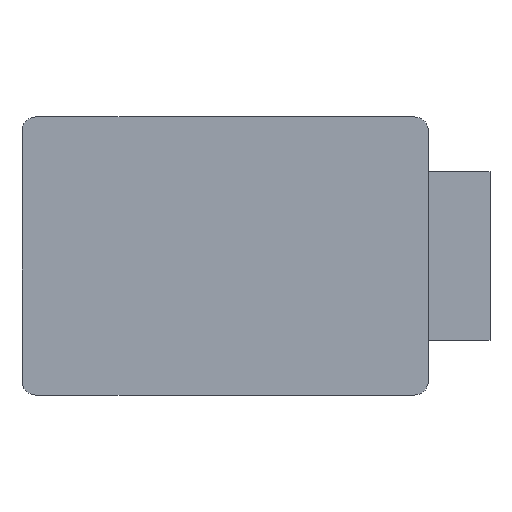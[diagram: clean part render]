
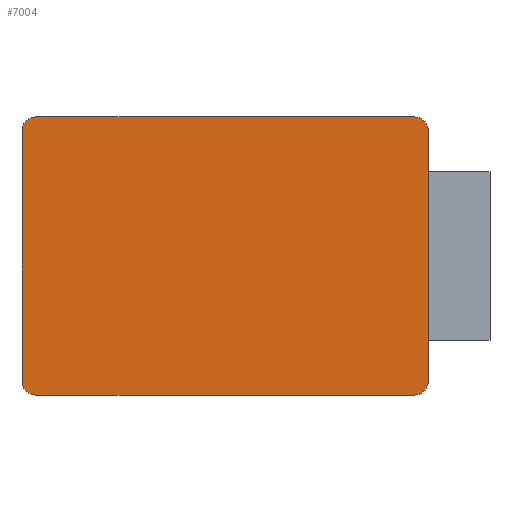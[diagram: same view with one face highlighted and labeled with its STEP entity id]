
A CAD part, top view. The second image highlights one B-rep face of the part: STEP entity #7004.
In plain terms, the highlighted planar face has unit normal (0, 0, 1).
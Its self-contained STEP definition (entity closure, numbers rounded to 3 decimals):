
#51 = VERTEX_POINT ( 'NONE', #1577 ) ;
#121 = DIRECTION ( 'NONE',  ( 0., 0., 1. ) ) ;
#598 = ORIENTED_EDGE ( 'NONE', *, *, #2927, .T. ) ;
#732 = CIRCLE ( 'NONE', #1997, 9. ) ;
#885 = LINE ( 'NONE', #5263, #1679 ) ;
#893 = CARTESIAN_POINT ( 'NONE',  ( -122.684, -90.125, 0. ) ) ;
#929 = CIRCLE ( 'NONE', #2184, 9. ) ;
#951 = AXIS2_PLACEMENT_3D ( 'NONE', #9159, #5411, #2357 ) ;
#975 = EDGE_CURVE ( 'NONE', #7857, #2090, #5878, .T. ) ;
#1110 = CARTESIAN_POINT ( 'NONE',  ( -122.684, 90.125, 0. ) ) ;
#1132 = EDGE_CURVE ( 'NONE', #2599, #5555, #6726, .T. ) ;
#1454 = EDGE_CURVE ( 'Edge4', #5555, #6379, #732, .T. ) ;
#1524 = DIRECTION ( 'NONE',  ( 1., 0., 0. ) ) ;
#1557 = ORIENTED_EDGE ( 'NONE', *, *, #6234, .T. ) ;
#1577 = CARTESIAN_POINT ( 'NONE',  ( 131.684, -81.125, 0. ) ) ;
#1594 = CARTESIAN_POINT ( 'NONE',  ( -122.684, -81.125, 0. ) ) ;
#1679 = VECTOR ( 'NONE', #6965, 1000. ) ;
#1997 = AXIS2_PLACEMENT_3D ( 'NONE', #7047, #121, #3316 ) ;
#2090 = VERTEX_POINT ( 'NONE', #3301 ) ;
#2168 = CARTESIAN_POINT ( 'NONE',  ( -131.684, -81.125, 0. ) ) ;
#2184 = AXIS2_PLACEMENT_3D ( 'NONE', #3020, #4619, #6169 ) ;
#2357 = DIRECTION ( 'NONE',  ( 1., 0., 0. ) ) ;
#2512 = ORIENTED_EDGE ( 'NONE', *, *, #8370, .T. ) ;
#2599 = VERTEX_POINT ( 'NONE', #8551 ) ;
#2782 = CARTESIAN_POINT ( 'NONE',  ( -131.684, 81.125, 0. ) ) ;
#2911 = CARTESIAN_POINT ( 'NONE',  ( 131.684, 81.125, 0. ) ) ;
#2927 = EDGE_CURVE ( 'NONE', #2090, #51, #4120, .T. ) ;
#2943 = VECTOR ( 'NONE', #4358, 1000. ) ;
#2990 = VECTOR ( 'NONE', #8141, 1000. ) ;
#3020 = CARTESIAN_POINT ( 'NONE',  ( 122.684, 81.125, 0. ) ) ;
#3053 = ORIENTED_EDGE ( 'NONE', *, *, #975, .T. ) ;
#3078 = DIRECTION ( 'NONE',  ( 0., 0., 1. ) ) ;
#3197 = ORIENTED_EDGE ( 'NONE', *, *, #5789, .T. ) ;
#3301 = CARTESIAN_POINT ( 'NONE',  ( 122.683, -90.125, 0. ) ) ;
#3316 = DIRECTION ( 'NONE',  ( 1., 0., 0. ) ) ;
#3652 = AXIS2_PLACEMENT_3D ( 'NONE', #7747, #3078, #1524 ) ;
#3677 = VERTEX_POINT ( 'NONE', #2911 ) ;
#4021 = EDGE_CURVE ( 'NONE', #6379, #8861, #885, .T. ) ;
#4120 = CIRCLE ( 'NONE', #3652, 9. ) ;
#4215 = VECTOR ( 'NONE', #5163, 1000. ) ;
#4358 = DIRECTION ( 'NONE',  ( 1., 0., 0. ) ) ;
#4484 = CIRCLE ( 'NONE', #7358, 9. ) ;
#4619 = DIRECTION ( 'NONE',  ( 0., 0., 1. ) ) ;
#4710 = PLANE ( 'NONE',  #951 ) ;
#5125 = CARTESIAN_POINT ( 'NONE',  ( 131.684, 90.125, 0. ) ) ;
#5134 = ORIENTED_EDGE ( 'NONE', *, *, #1132, .T. ) ;
#5163 = DIRECTION ( 'NONE',  ( -1., 0., 0. ) ) ;
#5263 = CARTESIAN_POINT ( 'NONE',  ( -131.684, 90.125, 0. ) ) ;
#5411 = DIRECTION ( 'NONE',  ( 0., 0., 1. ) ) ;
#5555 = VERTEX_POINT ( 'NONE', #1110 ) ;
#5789 = EDGE_CURVE ( 'Edge32', #3677, #2599, #929, .T. ) ;
#5805 = EDGE_LOOP ( 'NONE', ( #5134, #8976, #6985, #2512, #3053, #598, #1557, #3197 ) ) ;
#5878 = LINE ( 'NONE', #8880, #2943 ) ;
#6169 = DIRECTION ( 'NONE',  ( 1., 0., 0. ) ) ;
#6234 = EDGE_CURVE ( 'NONE', #51, #3677, #6583, .T. ) ;
#6264 = FACE_OUTER_BOUND ( 'NONE', #5805, .T. ) ;
#6379 = VERTEX_POINT ( 'NONE', #2782 ) ;
#6583 = LINE ( 'NONE', #5125, #2990 ) ;
#6726 = LINE ( 'NONE', #8143, #4215 ) ;
#6965 = DIRECTION ( 'NONE',  ( 0., -1., 0. ) ) ;
#6985 = ORIENTED_EDGE ( 'NONE', *, *, #4021, .T. ) ;
#7004 = ADVANCED_FACE ( 'Face2', ( #6264 ), #4710, .T. ) ;
#7047 = CARTESIAN_POINT ( 'NONE',  ( -122.684, 81.125, 0. ) ) ;
#7358 = AXIS2_PLACEMENT_3D ( 'NONE', #1594, #8254, #9777 ) ;
#7747 = CARTESIAN_POINT ( 'NONE',  ( 122.683, -81.125, 0. ) ) ;
#7857 = VERTEX_POINT ( 'NONE', #893 ) ;
#8141 = DIRECTION ( 'NONE',  ( 0., 1., 0. ) ) ;
#8143 = CARTESIAN_POINT ( 'NONE',  ( -131.684, 90.125, 0. ) ) ;
#8254 = DIRECTION ( 'NONE',  ( 0., 0., 1. ) ) ;
#8370 = EDGE_CURVE ( 'NONE', #8861, #7857, #4484, .T. ) ;
#8551 = CARTESIAN_POINT ( 'NONE',  ( 122.683, 90.125, 0. ) ) ;
#8861 = VERTEX_POINT ( 'NONE', #2168 ) ;
#8880 = CARTESIAN_POINT ( 'NONE',  ( -131.684, -90.125, 0. ) ) ;
#8976 = ORIENTED_EDGE ( 'NONE', *, *, #1454, .T. ) ;
#9159 = CARTESIAN_POINT ( 'NONE',  ( 0., 0., 0. ) ) ;
#9777 = DIRECTION ( 'NONE',  ( 1., 0., 0. ) ) ;
